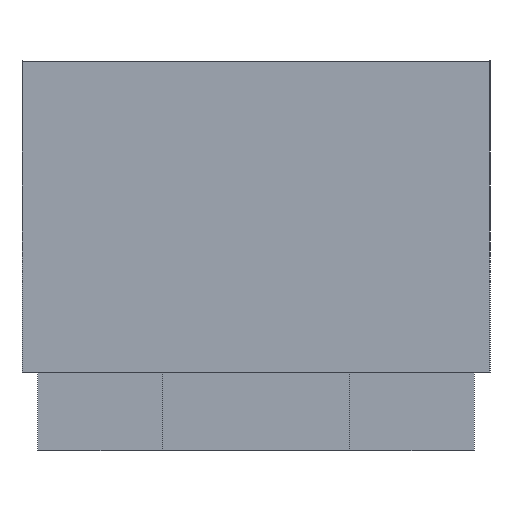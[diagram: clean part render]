
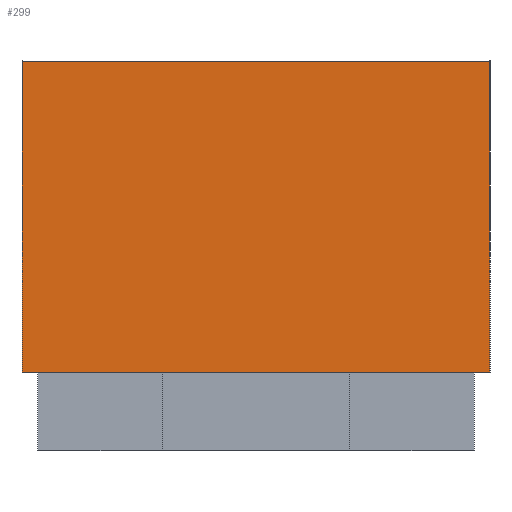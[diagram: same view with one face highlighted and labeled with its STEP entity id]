
A CAD part, left-side view. The second image highlights one B-rep face of the part: STEP entity #299.
In plain terms, the highlighted planar face has unit normal (-1, 0, 0).
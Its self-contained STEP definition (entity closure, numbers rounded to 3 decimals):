
#36 = EDGE_CURVE('',#37,#39,#41,.T.);
#37 = VERTEX_POINT('',#38);
#38 = CARTESIAN_POINT('',(-0.5,-0.3,0.));
#39 = VERTEX_POINT('',#40);
#40 = CARTESIAN_POINT('',(-0.5,-0.3,0.4));
#41 = SURFACE_CURVE('',#42,(#46,#58),.PCURVE_S1.);
#42 = LINE('',#43,#44);
#43 = CARTESIAN_POINT('',(-0.5,-0.3,0.));
#44 = VECTOR('',#45,1.);
#45 = DIRECTION('',(0.,0.,1.));
#46 = PCURVE('',#47,#52);
#47 = PLANE('',#48);
#48 = AXIS2_PLACEMENT_3D('',#49,#50,#51);
#49 = CARTESIAN_POINT('',(-0.5,-0.3,0.));
#50 = DIRECTION('',(0.,1.,0.));
#51 = DIRECTION('',(1.,0.,0.));
#52 = DEFINITIONAL_REPRESENTATION('',(#53),#57);
#53 = LINE('',#54,#55);
#54 = CARTESIAN_POINT('',(0.,0.));
#55 = VECTOR('',#56,1.);
#56 = DIRECTION('',(0.,-1.));
#57 = ( GEOMETRIC_REPRESENTATION_CONTEXT(2) 
PARAMETRIC_REPRESENTATION_CONTEXT() REPRESENTATION_CONTEXT('2D SPACE',''
  ) );
#58 = PCURVE('',#59,#64);
#59 = PLANE('',#60);
#60 = AXIS2_PLACEMENT_3D('',#61,#62,#63);
#61 = CARTESIAN_POINT('',(-0.5,0.3,0.));
#62 = DIRECTION('',(1.,0.,-0.));
#63 = DIRECTION('',(0.,-1.,0.));
#64 = DEFINITIONAL_REPRESENTATION('',(#65),#69);
#65 = LINE('',#66,#67);
#66 = CARTESIAN_POINT('',(0.6,0.));
#67 = VECTOR('',#68,1.);
#68 = DIRECTION('',(0.,-1.));
#69 = ( GEOMETRIC_REPRESENTATION_CONTEXT(2) 
PARAMETRIC_REPRESENTATION_CONTEXT() REPRESENTATION_CONTEXT('2D SPACE',''
  ) );
#87 = PLANE('',#88);
#88 = AXIS2_PLACEMENT_3D('',#89,#90,#91);
#89 = CARTESIAN_POINT('',(0.,0.,0.4));
#90 = DIRECTION('',(0.,0.,1.));
#91 = DIRECTION('',(0.,1.,0.));
#141 = PLANE('',#142);
#142 = AXIS2_PLACEMENT_3D('',#143,#144,#145);
#143 = CARTESIAN_POINT('',(0.,0.,
    0.));
#144 = DIRECTION('',(0.,0.,1.));
#145 = DIRECTION('',(0.,1.,0.));
#196 = PLANE('',#197);
#197 = AXIS2_PLACEMENT_3D('',#198,#199,#200);
#198 = CARTESIAN_POINT('',(0.5,0.3,0.));
#199 = DIRECTION('',(0.,-1.,0.));
#200 = DIRECTION('',(-1.,0.,0.));
#234 = VERTEX_POINT('',#235);
#235 = CARTESIAN_POINT('',(-0.5,0.3,0.4));
#256 = EDGE_CURVE('',#257,#234,#259,.T.);
#257 = VERTEX_POINT('',#258);
#258 = CARTESIAN_POINT('',(-0.5,0.3,0.));
#259 = SURFACE_CURVE('',#260,(#264,#271),.PCURVE_S1.);
#260 = LINE('',#261,#262);
#261 = CARTESIAN_POINT('',(-0.5,0.3,0.));
#262 = VECTOR('',#263,1.);
#263 = DIRECTION('',(0.,0.,1.));
#264 = PCURVE('',#196,#265);
#265 = DEFINITIONAL_REPRESENTATION('',(#266),#270);
#266 = LINE('',#267,#268);
#267 = CARTESIAN_POINT('',(1.,0.));
#268 = VECTOR('',#269,1.);
#269 = DIRECTION('',(0.,-1.));
#270 = ( GEOMETRIC_REPRESENTATION_CONTEXT(2) 
PARAMETRIC_REPRESENTATION_CONTEXT() REPRESENTATION_CONTEXT('2D SPACE',''
  ) );
#271 = PCURVE('',#59,#272);
#272 = DEFINITIONAL_REPRESENTATION('',(#273),#277);
#273 = LINE('',#274,#275);
#274 = CARTESIAN_POINT('',(0.,0.));
#275 = VECTOR('',#276,1.);
#276 = DIRECTION('',(0.,-1.));
#277 = ( GEOMETRIC_REPRESENTATION_CONTEXT(2) 
PARAMETRIC_REPRESENTATION_CONTEXT() REPRESENTATION_CONTEXT('2D SPACE',''
  ) );
#299 = ADVANCED_FACE('',(#300),#59,.F.);
#300 = FACE_BOUND('',#301,.F.);
#301 = EDGE_LOOP('',(#302,#303,#324,#325));
#302 = ORIENTED_EDGE('',*,*,#256,.T.);
#303 = ORIENTED_EDGE('',*,*,#304,.T.);
#304 = EDGE_CURVE('',#234,#39,#305,.T.);
#305 = SURFACE_CURVE('',#306,(#310,#317),.PCURVE_S1.);
#306 = LINE('',#307,#308);
#307 = CARTESIAN_POINT('',(-0.5,0.3,0.4));
#308 = VECTOR('',#309,1.);
#309 = DIRECTION('',(0.,-1.,0.));
#310 = PCURVE('',#59,#311);
#311 = DEFINITIONAL_REPRESENTATION('',(#312),#316);
#312 = LINE('',#313,#314);
#313 = CARTESIAN_POINT('',(0.,-0.4));
#314 = VECTOR('',#315,1.);
#315 = DIRECTION('',(1.,0.));
#316 = ( GEOMETRIC_REPRESENTATION_CONTEXT(2) 
PARAMETRIC_REPRESENTATION_CONTEXT() REPRESENTATION_CONTEXT('2D SPACE',''
  ) );
#317 = PCURVE('',#87,#318);
#318 = DEFINITIONAL_REPRESENTATION('',(#319),#323);
#319 = LINE('',#320,#321);
#320 = CARTESIAN_POINT('',(0.3,0.5));
#321 = VECTOR('',#322,1.);
#322 = DIRECTION('',(-1.,0.));
#323 = ( GEOMETRIC_REPRESENTATION_CONTEXT(2) 
PARAMETRIC_REPRESENTATION_CONTEXT() REPRESENTATION_CONTEXT('2D SPACE',''
  ) );
#324 = ORIENTED_EDGE('',*,*,#36,.F.);
#325 = ORIENTED_EDGE('',*,*,#326,.F.);
#326 = EDGE_CURVE('',#257,#37,#327,.T.);
#327 = SURFACE_CURVE('',#328,(#332,#339),.PCURVE_S1.);
#328 = LINE('',#329,#330);
#329 = CARTESIAN_POINT('',(-0.5,0.3,0.));
#330 = VECTOR('',#331,1.);
#331 = DIRECTION('',(0.,-1.,0.));
#332 = PCURVE('',#59,#333);
#333 = DEFINITIONAL_REPRESENTATION('',(#334),#338);
#334 = LINE('',#335,#336);
#335 = CARTESIAN_POINT('',(0.,0.));
#336 = VECTOR('',#337,1.);
#337 = DIRECTION('',(1.,0.));
#338 = ( GEOMETRIC_REPRESENTATION_CONTEXT(2) 
PARAMETRIC_REPRESENTATION_CONTEXT() REPRESENTATION_CONTEXT('2D SPACE',''
  ) );
#339 = PCURVE('',#141,#340);
#340 = DEFINITIONAL_REPRESENTATION('',(#341),#345);
#341 = LINE('',#342,#343);
#342 = CARTESIAN_POINT('',(0.3,0.5));
#343 = VECTOR('',#344,1.);
#344 = DIRECTION('',(-1.,0.));
#345 = ( GEOMETRIC_REPRESENTATION_CONTEXT(2) 
PARAMETRIC_REPRESENTATION_CONTEXT() REPRESENTATION_CONTEXT('2D SPACE',''
  ) );
